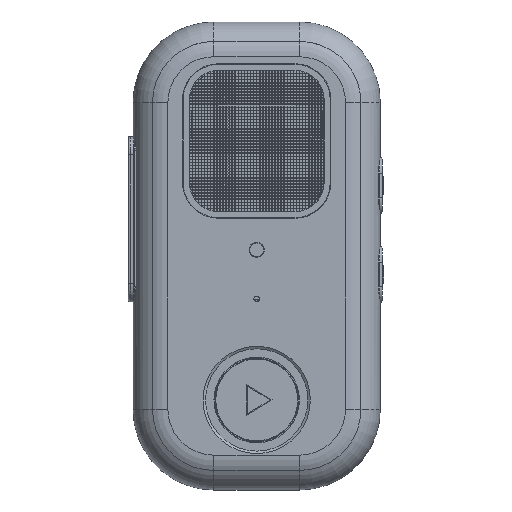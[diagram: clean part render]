
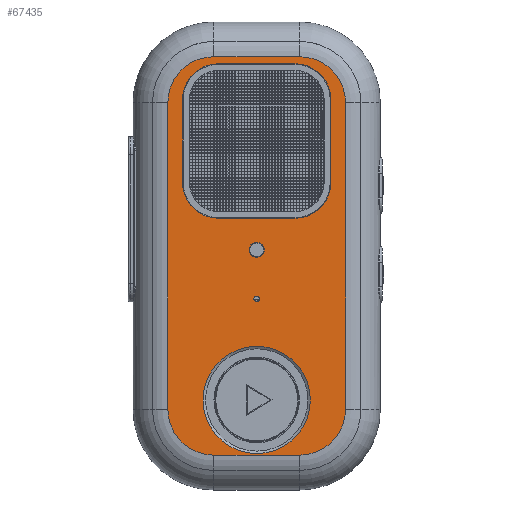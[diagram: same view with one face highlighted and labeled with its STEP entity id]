
A CAD part, top view. The second image highlights one B-rep face of the part: STEP entity #67435.
In plain terms, the highlighted planar face has unit normal (0, 0, 1).
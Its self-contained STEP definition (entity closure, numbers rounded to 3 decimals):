
#2859=FACE_BOUND('',#9437,.T.);
#2860=FACE_BOUND('',#9438,.T.);
#2861=FACE_BOUND('',#9439,.T.);
#2862=FACE_BOUND('',#9440,.T.);
#3329=PLANE('',#73022);
#5448=FACE_OUTER_BOUND('',#9436,.T.);
#9436=EDGE_LOOP('',(#47740,#47741,#47742,#47743,#47744,#47745,#47746,#47747));
#9437=EDGE_LOOP('',(#47748));
#9438=EDGE_LOOP('',(#47749));
#9439=EDGE_LOOP('',(#47750,#47751,#47752,#47753,#47754,#47755,#47756,#47757));
#9440=EDGE_LOOP('',(#47758));
#13346=LINE('',#97717,#19527);
#13350=LINE('',#97729,#19531);
#13358=LINE('',#97752,#19539);
#13359=LINE('',#97754,#19540);
#14154=LINE('',#101159,#20335);
#14155=LINE('',#101163,#20336);
#14156=LINE('',#101167,#20337);
#14157=LINE('',#101171,#20338);
#19527=VECTOR('',#78820,10.);
#19531=VECTOR('',#78832,10.);
#19539=VECTOR('',#78856,10.);
#19540=VECTOR('',#78859,10.);
#20335=VECTOR('',#81074,1.);
#20336=VECTOR('',#81077,1.);
#20337=VECTOR('',#81080,1.);
#20338=VECTOR('',#81083,1.);
#25641=CIRCLE('',#72228,2.45);
#25676=CIRCLE('',#72288,17.5);
#25681=CIRCLE('',#72297,11.7);
#25683=CIRCLE('',#72301,11.7);
#25685=CIRCLE('',#72305,11.7);
#25688=CIRCLE('',#72310,11.7);
#26083=CIRCLE('',#73023,15.);
#26084=CIRCLE('',#73024,15.);
#26085=CIRCLE('',#73025,15.);
#26086=CIRCLE('',#73026,15.);
#26087=CIRCLE('',#73027,0.9);
#28502=VERTEX_POINT('',#97496);
#28573=VERTEX_POINT('',#97690);
#28578=VERTEX_POINT('',#97707);
#28579=VERTEX_POINT('',#97708);
#28582=VERTEX_POINT('',#97716);
#28584=VERTEX_POINT('',#97722);
#28586=VERTEX_POINT('',#97728);
#28588=VERTEX_POINT('',#97734);
#28589=VERTEX_POINT('',#97735);
#28593=VERTEX_POINT('',#97748);
#29516=VERTEX_POINT('',#101157);
#29517=VERTEX_POINT('',#101158);
#29518=VERTEX_POINT('',#101160);
#29519=VERTEX_POINT('',#101162);
#29520=VERTEX_POINT('',#101164);
#29521=VERTEX_POINT('',#101166);
#29522=VERTEX_POINT('',#101168);
#29523=VERTEX_POINT('',#101170);
#29524=VERTEX_POINT('',#101173);
#35245=EDGE_CURVE('',#28502,#28502,#25641,.T.);
#35343=EDGE_CURVE('',#28573,#28573,#25676,.T.);
#35350=EDGE_CURVE('',#28578,#28579,#25681,.T.);
#35354=EDGE_CURVE('',#28579,#28582,#13346,.T.);
#35357=EDGE_CURVE('',#28582,#28584,#25683,.T.);
#35360=EDGE_CURVE('',#28584,#28586,#13350,.T.);
#35363=EDGE_CURVE('',#28588,#28589,#25685,.T.);
#35370=EDGE_CURVE('',#28586,#28593,#25688,.T.);
#35372=EDGE_CURVE('',#28593,#28588,#13358,.T.);
#35373=EDGE_CURVE('',#28589,#28578,#13359,.T.);
#36636=EDGE_CURVE('',#29516,#29517,#14154,.T.);
#36637=EDGE_CURVE('',#29518,#29516,#26083,.T.);
#36638=EDGE_CURVE('',#29519,#29518,#14155,.T.);
#36639=EDGE_CURVE('',#29520,#29519,#26084,.T.);
#36640=EDGE_CURVE('',#29521,#29520,#14156,.T.);
#36641=EDGE_CURVE('',#29522,#29521,#26085,.T.);
#36642=EDGE_CURVE('',#29523,#29522,#14157,.T.);
#36643=EDGE_CURVE('',#29517,#29523,#26086,.T.);
#36644=EDGE_CURVE('',#29524,#29524,#26087,.T.);
#47740=ORIENTED_EDGE('',*,*,#36636,.F.);
#47741=ORIENTED_EDGE('',*,*,#36637,.F.);
#47742=ORIENTED_EDGE('',*,*,#36638,.F.);
#47743=ORIENTED_EDGE('',*,*,#36639,.F.);
#47744=ORIENTED_EDGE('',*,*,#36640,.F.);
#47745=ORIENTED_EDGE('',*,*,#36641,.F.);
#47746=ORIENTED_EDGE('',*,*,#36642,.F.);
#47747=ORIENTED_EDGE('',*,*,#36643,.F.);
#47748=ORIENTED_EDGE('',*,*,#35245,.T.);
#47749=ORIENTED_EDGE('',*,*,#35343,.T.);
#47750=ORIENTED_EDGE('',*,*,#35370,.T.);
#47751=ORIENTED_EDGE('',*,*,#35372,.T.);
#47752=ORIENTED_EDGE('',*,*,#35363,.T.);
#47753=ORIENTED_EDGE('',*,*,#35373,.T.);
#47754=ORIENTED_EDGE('',*,*,#35350,.T.);
#47755=ORIENTED_EDGE('',*,*,#35354,.T.);
#47756=ORIENTED_EDGE('',*,*,#35357,.T.);
#47757=ORIENTED_EDGE('',*,*,#35360,.T.);
#47758=ORIENTED_EDGE('',*,*,#36644,.T.);
#67435=ADVANCED_FACE('',(#5448,#2859,#2860,#2861,#2862),#3329,.F.);
#72228=AXIS2_PLACEMENT_3D('',#97498,#78609,#78610);
#72288=AXIS2_PLACEMENT_3D('',#97692,#78792,#78793);
#72297=AXIS2_PLACEMENT_3D('',#97709,#78812,#78813);
#72301=AXIS2_PLACEMENT_3D('',#97723,#78825,#78826);
#72305=AXIS2_PLACEMENT_3D('',#97736,#78837,#78838);
#72310=AXIS2_PLACEMENT_3D('',#97749,#78851,#78852);
#73022=AXIS2_PLACEMENT_3D('',#101156,#81072,#81073);
#73023=AXIS2_PLACEMENT_3D('',#101161,#81075,#81076);
#73024=AXIS2_PLACEMENT_3D('',#101165,#81078,#81079);
#73025=AXIS2_PLACEMENT_3D('',#101169,#81081,#81082);
#73026=AXIS2_PLACEMENT_3D('',#101172,#81084,#81085);
#73027=AXIS2_PLACEMENT_3D('',#101174,#81086,#81087);
#78609=DIRECTION('center_axis',(0.,0.,-1.));
#78610=DIRECTION('ref_axis',(1.,0.,0.));
#78792=DIRECTION('center_axis',(0.,0.,-1.));
#78793=DIRECTION('ref_axis',(1.,0.,0.));
#78812=DIRECTION('center_axis',(0.,0.,-1.));
#78813=DIRECTION('ref_axis',(1.,0.,0.));
#78820=DIRECTION('',(0.,-1.,0.));
#78825=DIRECTION('center_axis',(0.,0.,-1.));
#78826=DIRECTION('ref_axis',(1.,0.,0.));
#78832=DIRECTION('',(-1.,0.,0.));
#78837=DIRECTION('center_axis',(0.,0.,-1.));
#78838=DIRECTION('ref_axis',(1.,0.,0.));
#78851=DIRECTION('center_axis',(0.,0.,-1.));
#78852=DIRECTION('ref_axis',(1.,0.,0.));
#78856=DIRECTION('',(0.,1.,0.));
#78859=DIRECTION('',(1.,0.,0.));
#81072=DIRECTION('center_axis',(0.,0.,-1.));
#81073=DIRECTION('ref_axis',(-1.,0.,0.));
#81074=DIRECTION('',(-1.,0.,0.));
#81075=DIRECTION('center_axis',(0.,0.,-1.));
#81076=DIRECTION('ref_axis',(0.707,-0.707,0.));
#81077=DIRECTION('',(0.,-1.,0.));
#81078=DIRECTION('center_axis',(0.,0.,-1.));
#81079=DIRECTION('ref_axis',(0.707,0.707,0.));
#81080=DIRECTION('',(1.,0.,0.));
#81081=DIRECTION('center_axis',(0.,0.,-1.));
#81082=DIRECTION('ref_axis',(-0.707,0.707,0.));
#81083=DIRECTION('',(0.,1.,0.));
#81084=DIRECTION('center_axis',(0.,0.,-1.));
#81085=DIRECTION('ref_axis',(-0.707,-0.707,0.));
#81086=DIRECTION('center_axis',(0.,0.,-1.));
#81087=DIRECTION('ref_axis',(-1.,0.,0.));
#97496=CARTESIAN_POINT('',(-2.45,2.,0.));
#97498=CARTESIAN_POINT('Origin',(0.,2.,0.));
#97690=CARTESIAN_POINT('',(-17.5,-47.,0.));
#97692=CARTESIAN_POINT('Origin',(0.,-47.,0.));
#97707=CARTESIAN_POINT('',(12.5,62.7,0.));
#97708=CARTESIAN_POINT('',(24.2,51.,0.));
#97709=CARTESIAN_POINT('Origin',(12.5,51.,0.));
#97716=CARTESIAN_POINT('',(24.2,24.,0.));
#97717=CARTESIAN_POINT('',(24.2,18.75,0.));
#97722=CARTESIAN_POINT('',(12.5,12.3,0.));
#97723=CARTESIAN_POINT('Origin',(12.5,24.,0.));
#97728=CARTESIAN_POINT('',(-12.5,12.3,0.));
#97729=CARTESIAN_POINT('',(0.,12.3,0.));
#97734=CARTESIAN_POINT('',(-24.2,51.,0.));
#97735=CARTESIAN_POINT('',(-12.5,62.7,0.));
#97736=CARTESIAN_POINT('Origin',(-12.5,51.,0.));
#97748=CARTESIAN_POINT('',(-24.2,24.,0.));
#97749=CARTESIAN_POINT('Origin',(-12.5,24.,0.));
#97752=CARTESIAN_POINT('',(-24.2,18.75,0.));
#97754=CARTESIAN_POINT('',(0.,62.7,0.));
#101156=CARTESIAN_POINT('Origin',(0.,0.,0.));
#101157=CARTESIAN_POINT('',(14.,-65.,0.));
#101158=CARTESIAN_POINT('',(-14.,-65.,0.));
#101159=CARTESIAN_POINT('',(7.,-65.,0.));
#101160=CARTESIAN_POINT('',(29.,-50.,0.));
#101161=CARTESIAN_POINT('Origin',(14.,-50.,0.));
#101162=CARTESIAN_POINT('',(29.,50.,0.));
#101163=CARTESIAN_POINT('',(29.,25.,0.));
#101164=CARTESIAN_POINT('',(14.,65.,0.));
#101165=CARTESIAN_POINT('Origin',(14.,50.,0.));
#101166=CARTESIAN_POINT('',(-14.,65.,0.));
#101167=CARTESIAN_POINT('',(-7.,65.,0.));
#101168=CARTESIAN_POINT('',(-29.,50.,0.));
#101169=CARTESIAN_POINT('Origin',(-14.,50.,0.));
#101170=CARTESIAN_POINT('',(-29.,-50.,0.));
#101171=CARTESIAN_POINT('',(-29.,-25.,0.));
#101172=CARTESIAN_POINT('Origin',(-14.,-50.,0.));
#101173=CARTESIAN_POINT('',(0.9,-14.,0.));
#101174=CARTESIAN_POINT('Origin',(0.,-14.,0.));
